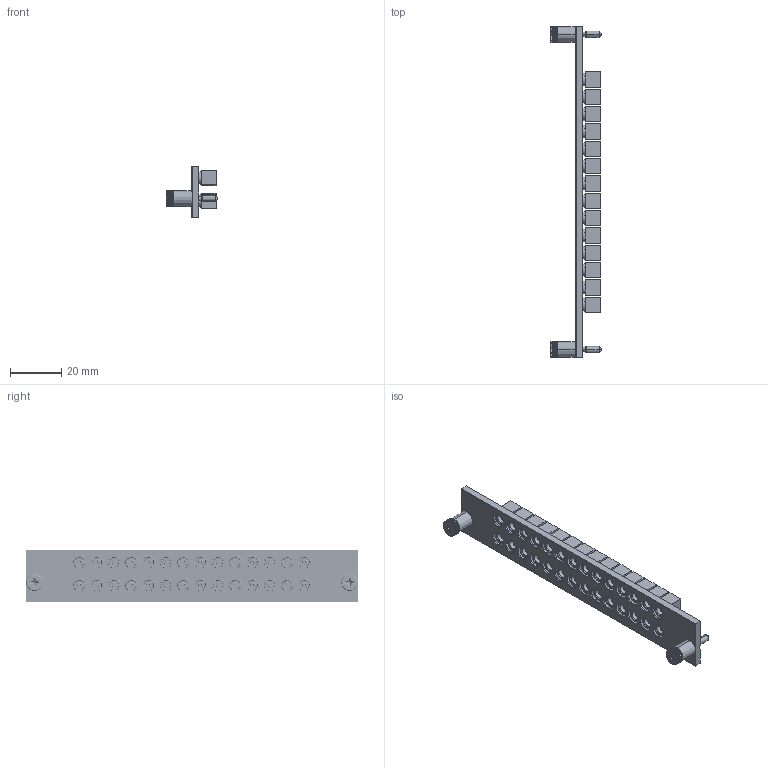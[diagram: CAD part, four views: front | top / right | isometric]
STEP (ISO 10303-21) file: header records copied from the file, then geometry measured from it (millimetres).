
FILE_DESCRIPTION((''),'2;1');
FILE_NAME('CU_PXI-2541','2013-01-08T',('jjorden'),(''),'PRO/ENGINEER BY PARAMETRIC TECHNOLOGY CORPORATION, 2011490','PRO/ENGINEER BY PARAMETRIC TECHNOLOGY CORPORATION, 2011490','');
FILE_SCHEMA(('CONFIG_CONTROL_DESIGN'));
Products named in the file (1): CU_PXI-2541
Bounding box: 20 x 129.02 x 20.02 mm (x, y, z)
Volume: 12115.4 mm3; surface area: 17300 mm2
Topology: 29 solids, 29 shells, 4143 faces, 11412 edges, 7534 vertices
Faces by surface type: plane 2009, cylinder 1406, cone 656, bspline 36, extrusion 32, torus 4
Entity records: 142661 total; most frequent: CARTESIAN_POINT 36778, ORIENTED_EDGE 22816, DIRECTION 21696, EDGE_CURVE 11408, AXIS2_PLACEMENT_3D 7917, VERTEX_POINT 7534, VECTOR 5862, LINE 5830
